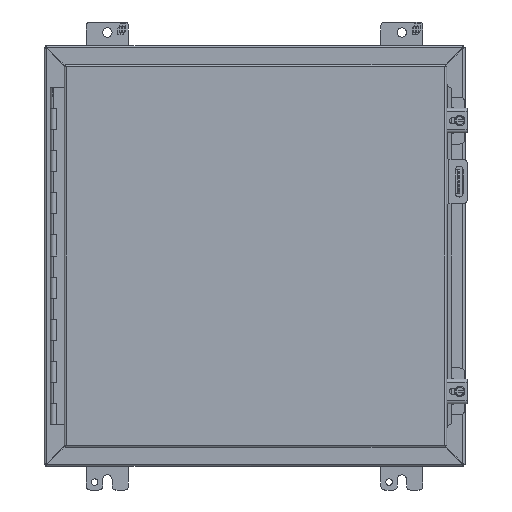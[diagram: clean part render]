
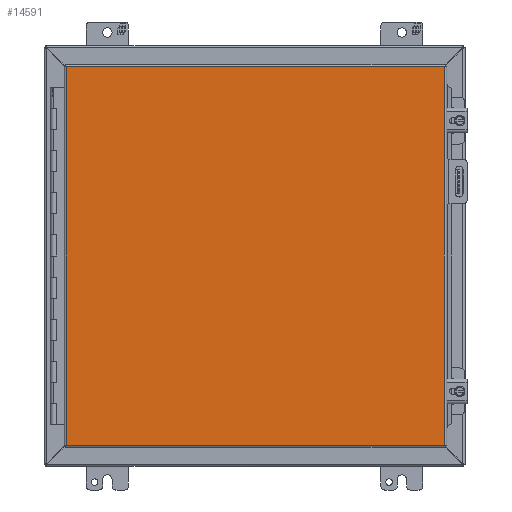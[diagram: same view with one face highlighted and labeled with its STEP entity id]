
A CAD part, front view. The second image highlights one B-rep face of the part: STEP entity #14591.
In plain terms, the highlighted planar face has unit normal (0, -1, 0).
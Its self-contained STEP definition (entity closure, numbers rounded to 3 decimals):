
#1284=LINE('',#21862,#2677);
#1285=LINE('',#21865,#2678);
#1286=LINE('',#21867,#2679);
#1287=LINE('',#21869,#2680);
#2677=VECTOR('',#17891,1000.);
#2678=VECTOR('',#17892,1000.);
#2679=VECTOR('',#17893,1000.);
#2680=VECTOR('',#17894,1000.);
#5406=ORIENTED_EDGE('',*,*,#8842,.T.);
#5407=ORIENTED_EDGE('',*,*,#8843,.T.);
#5408=ORIENTED_EDGE('',*,*,#8844,.T.);
#5409=ORIENTED_EDGE('',*,*,#8845,.T.);
#8842=EDGE_CURVE('',#10670,#10671,#1284,.T.);
#8843=EDGE_CURVE('',#10671,#10672,#1285,.T.);
#8844=EDGE_CURVE('',#10672,#10673,#1286,.T.);
#8845=EDGE_CURVE('',#10673,#10670,#1287,.T.);
#10670=VERTEX_POINT('',#21863);
#10671=VERTEX_POINT('',#21864);
#10672=VERTEX_POINT('',#21866);
#10673=VERTEX_POINT('',#21868);
#12214=EDGE_LOOP('',(#5406,#5407,#5408,#5409));
#13147=FACE_BOUND('',#12214,.T.);
#13953=PLANE('',#15717);
#14591=ADVANCED_FACE('',(#13147),#13953,.T.);
#15717=AXIS2_PLACEMENT_3D('',#21861,#17889,#17890);
#17889=DIRECTION('',(0.,-1.,0.));
#17890=DIRECTION('',(0.,0.,-1.));
#17891=DIRECTION('',(0.,0.,-1.));
#17892=DIRECTION('',(1.,0.,0.));
#17893=DIRECTION('',(0.,0.,1.));
#17894=DIRECTION('',(-1.,0.,0.));
#21861=CARTESIAN_POINT('',(-228.244,0.,-228.46));
#21862=CARTESIAN_POINT('',(-228.244,0.,228.46));
#21863=CARTESIAN_POINT('',(-228.244,0.,228.46));
#21864=CARTESIAN_POINT('',(-228.244,0.,-228.46));
#21865=CARTESIAN_POINT('',(-228.244,0.,-228.46));
#21866=CARTESIAN_POINT('',(228.244,0.,-228.46));
#21867=CARTESIAN_POINT('',(228.244,0.,-228.46));
#21868=CARTESIAN_POINT('',(228.244,0.,228.46));
#21869=CARTESIAN_POINT('',(228.244,0.,228.46));
